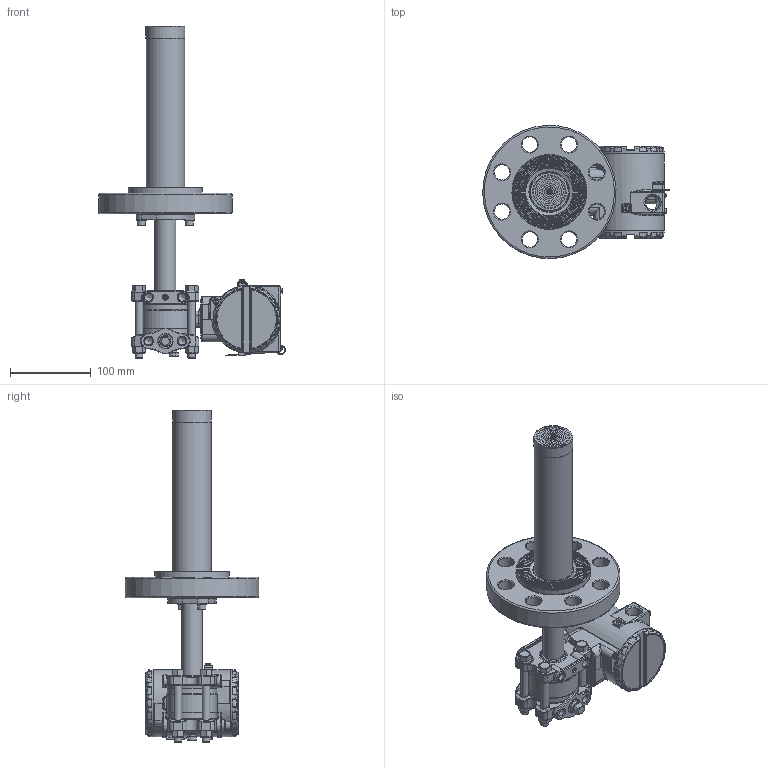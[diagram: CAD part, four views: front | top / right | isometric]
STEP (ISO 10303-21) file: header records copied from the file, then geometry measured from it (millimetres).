
FILE_DESCRIPTION(/* description */ (''),/* implementation_level */ '2;1');
FILE_NAME(/* name */ 'F:\Area\Desenvolvimento_2\Projects\Sensor\projetos\LD30X\montagens 3d - clientes\SELO NIVEL\LD30XL 2-600 RF ext 200 ref 1-4NPT purga acima.stp',/* time_stamp */ '2023-02-10T16:20:33-03:00',/* author */ ('inventor02'),/* organization */ (''),/* preprocessor_version */ 'ST-DEVELOPER v17',/* originating_system */ 'Autodesk Inventor 2019',/* authorisation */ '');
FILE_SCHEMA (('CONFIG_CONTROL_DESIGN'));
Products named in the file (41): LD30XL 2-600 RF ext 200 ref 1-4NPT purga acima; 204-0301-L-2 600 RF ext 200 purga acima; nivel fx3 com baixa diferencial 1-4NPT purga acima; involucro fx0-3 apos a usinagem final; flange diferencial std purga; 101-C-7484-01 flange selo nivel VR; 201-A-0504-tubo união teste 1; bujao 1-4NPT; Sangria; Porca 3-8 x 16 UNC; Paraf. 3-8 x 16 UNC; adaptação tubo x flanges 1-1-2 a 4pol; 101-B-0161-anel cortado do tubo - teste1; 101-B-0162-flange fixação tubo; ANSI B18.3.1M - M6x1 x 16; DIN 127 - A 6; flange 2 600 ext 200; 101-C-0126-10; 101-B-7700-01-200; 101-B-0168-11; carcaça vazia com tampas e plaqueta; carcaça LD inox sem letras; Subconjunto plaqueta 300; Plaqueta transmissor; Parafuso da Plaqueta; Rebite da Plaqueta; 096-A-0169-03; 101-A-0502-01; Chapa aterramento externo; ISO 1207 - M4 x 8; DIN 915 - M6 x 10; ANSI B18.3.1M - M4x0,7 x 8; Subconjunto tampa com visor aluminio; tampa pintada; VIDRO DO VISOR; oring 41x1 vidro tampa; Trava do vidro da tampa com visor; trava do vidro VH256; Subconjunto tampa sem visor-aluminio; tampa cega 300 pintada p0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
Assembly tree (51 placements, depth 4):
  LD30XL 2-600 RF ext 200 ref 1-4NPT purga acima
    204-0301-L-2 600 RF ext 200 purga acima
      nivel fx3 com baixa diferencial 1-4NPT purga acima
        involucro fx0-3 apos a usinagem final
        flange diferencial std purga
        101-C-7484-01 flange selo nivel VR
        201-A-0504-tubo união teste 1
        DIN 915 - M6 x 10
        bujao 1-4NPT
        Sangria
        Porca 3-8 x 16 UNC  x4
        Paraf. 3-8 x 16 UNC  x4
      adaptação tubo x flanges 1-1-2 a 4pol
        101-B-0161-anel cortado do tubo - teste1
        101-B-0162-flange fixação tubo
        ANSI B18.3.1M - M6x1 x 16  x2
        DIN 127 - A 6  x2
      flange 2 600 ext 200
        101-C-0126-10
        101-B-7700-01-200
        101-B-0168-11
    carcaça vazia com tampas e plaqueta
      carcaça LD inox sem letras
      Subconjunto plaqueta 300
        Plaqueta transmissor
        Parafuso da Plaqueta
        Rebite da Plaqueta
        096-A-0169-03
        101-A-0502-01
      Chapa aterramento externo
      ISO 1207 - M4 x 8
      DIN 915 - M6 x 10
      ANSI B18.3.1M - M4x0,7 x 8  x2
      Subconjunto tampa com visor aluminio
        tampa pintada
        VIDRO DO VISOR
        oring 41x1 vidro tampa
        Trava do vidro da tampa com visor
        trava do vidro VH256
        00034775-0
      Subconjunto tampa sem visor-aluminio
        tampa cega 300 pintada p0
        00034775-0
Bounding box: 230.71 x 164.84 x 410.7 mm (x, y, z)
Volume: 1232280.7 mm3; surface area: 381016.2 mm2
Topology: 43 solids, 43 shells, 2756 faces, 6595 edges, 3904 vertices
Faces by surface type: bspline 666, cylinder 660, plane 569, torus 479, cone 256, sphere 126
Full cylindrical faces by diameter (mm): 2 x4, 2.1 x2, 2.459 x5, 2.5 x1, 2.642 x1, 2.7 x1, 2.8 x1, 3 x4, 3.242 x4, 3.5 x5, 3.571 x1, 4 x5, 4.3 x1, 4.4 x1, 4.917 x4, 5 x1, 5.5 x3, 6 x6, 6.647 x1, 7 x7, 7.087 x2, 7.6 x2, 7.798 x4, 8 x1, 8.7 x2, 9.525 x4, 9.728 x6, 10 x2, 10.5 x8, 10.719 x2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
Entity records: 95071 total; most frequent: CARTESIAN_POINT 34704, DIRECTION 12469, ORIENTED_EDGE 12370, EDGE_CURVE 6185, AXIS2_PLACEMENT_3D 5507, VERTEX_POINT 3710, CIRCLE 3261, EDGE_LOOP 2813
